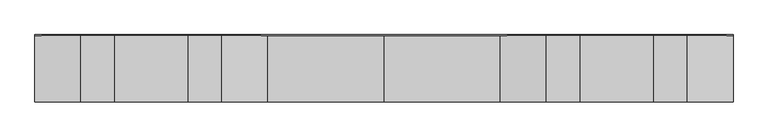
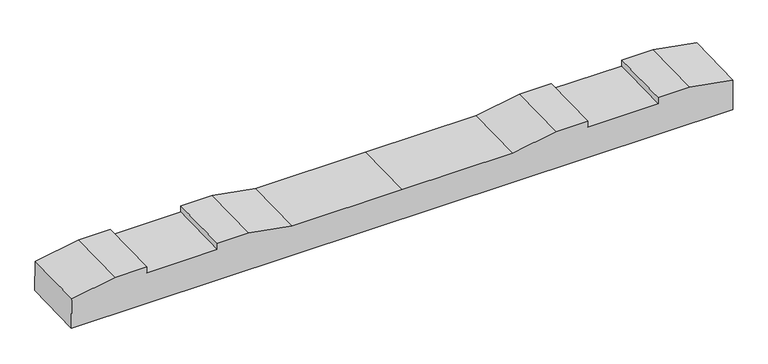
"""IFC4 building model written with IfcOpenShell, lengths in millimetres: proxy geometry, 轨枕-立面角度 : 轨枕-立面角度."""

from ifc_helpers import new_model, si_unit, frame, origin, place, context, project, spatial, polyline, outline, extrude, source, transform, mapped, element, save


def generic_models_93a9f04b(model_context):
    return source(origin(), model_context, "Body", "SweptSolid", [
        extrude(outline(polyline([(0.0, 0.0), (2099.7669328, 0.0), (2099.7669328, -100.020689), (1961.8834664, -124.5), (1861.8834664, -124.5), (1861.8834664, -104.5), (1637.8834664, -104.5), (1637.8834664, -124.5), (1537.8834664, -124.5), (1399.8834664, -100.0), (1049.8834664, -100.0), (699.8834664, -100.0), (561.8834664, -124.5), (461.8834664, -124.5), (461.8834664, -104.5), (237.8834664, -104.5), (237.8834664, -124.5), (137.8834664, -124.5), (0.0, -100.020689), (0.0, 0.0)])), frame((-1049.8834664, -97.4093335, -106.9189962), z_axis=(0.0, 0.9996997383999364, 0.0245037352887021), x_axis=(1.0, 0.0, 0.0)), (0.0, 0.0, 1.0), 200.0),
    ])


if __name__ == "__main__":
    model = new_model("IFC4")
    model_context = context("Model", 3, world=origin())
    ifc_project = project(units=[si_unit("LENGTHUNIT", "METRE", prefix="MILLI")], contexts=[model_context])
    site = spatial("IfcSite", under=ifc_project)
    building = spatial("IfcBuilding", under=site)
    placement = place(None, origin())
    generic_models_shape = generic_models_93a9f04b(model_context)
    element("IfcBuildingElementProxy", 1, Name="轨枕-立面角度 : 轨枕-立面角度", ObjectType="轨枕-立面角度 : 轨枕-立面角度", at=placement, inside=building, context=model_context, shape_type="MappedRepresentation", body=[
        mapped(generic_models_shape, transform((0.0, 0.0, 0.0), x_axis=(1.0, 0.0, 0.0), y_axis=(0.0, 1.0, 0.0), z_axis=(0.0, 0.0, 1.0))),
    ])
    save(model, "model.ifc")
